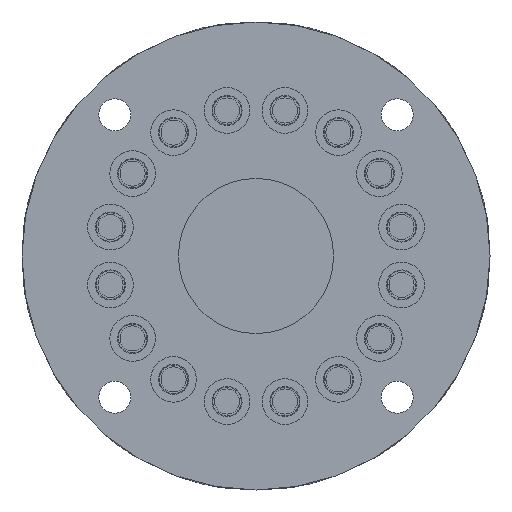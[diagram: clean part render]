
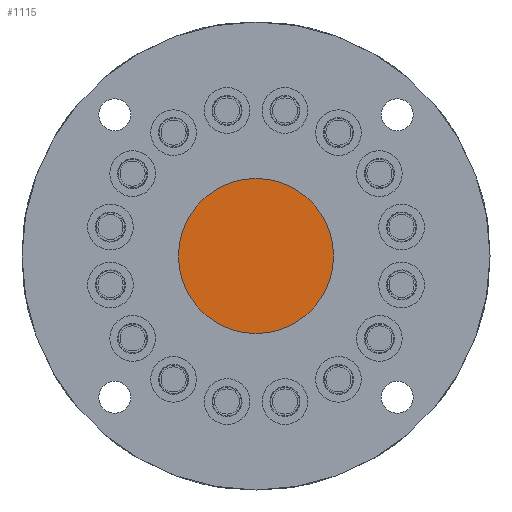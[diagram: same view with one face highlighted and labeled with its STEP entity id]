
A CAD part, front view. The second image highlights one B-rep face of the part: STEP entity #1115.
In plain terms, the highlighted planar face has unit normal (0, -1, 0).
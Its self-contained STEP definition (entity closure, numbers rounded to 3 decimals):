
#1068=CARTESIAN_POINT('',(0.0,0.0,34.0));
#1069=VERTEX_POINT('',#1068);
#1077=CARTESIAN_POINT('',(0.0,0.0,-34.0));
#1078=VERTEX_POINT('',#1077);
#1085=CARTESIAN_POINT('',(0.0,0.0,0.0));
#1086=DIRECTION('',(0.0,-1.0,0.0));
#1087=DIRECTION('',(0.0,0.0,-1.0));
#1088=AXIS2_PLACEMENT_3D('',#1085,#1086,#1087);
#1089=CIRCLE('',#1088,34.0);
#1090=EDGE_CURVE('no 3559',#1069,#1078,#1089,.T.);
#1100=CARTESIAN_POINT('',(0.0,0.0,0.0));
#1101=DIRECTION('',(0.0,-1.0,0.0));
#1102=DIRECTION('',(0.0,0.0,-1.0));
#1103=AXIS2_PLACEMENT_3D('',#1100,#1101,#1102);
#1104=CIRCLE('',#1103,34.0);
#1105=EDGE_CURVE('no 3566',#1078,#1069,#1104,.T.);
#1106=ORIENTED_EDGE('',*,*,#1105,.T.);
#1107=ORIENTED_EDGE('',*,*,#1090,.T.);
#1108=EDGE_LOOP('',(#1106,#1107));
#1109=FACE_OUTER_BOUND('',#1108,.T.);
#1110=CARTESIAN_POINT('',(0.0,0.0,0.0));
#1111=DIRECTION('',(0.0,1.0,0.0));
#1112=DIRECTION('',(0.0,0.0,1.0));
#1113=AXIS2_PLACEMENT_3D('',#1110,#1111,#1112);
#1114=PLANE('',#1113);
#1115=ADVANCED_FACE('no 3561',(#1109),#1114,.F.);
